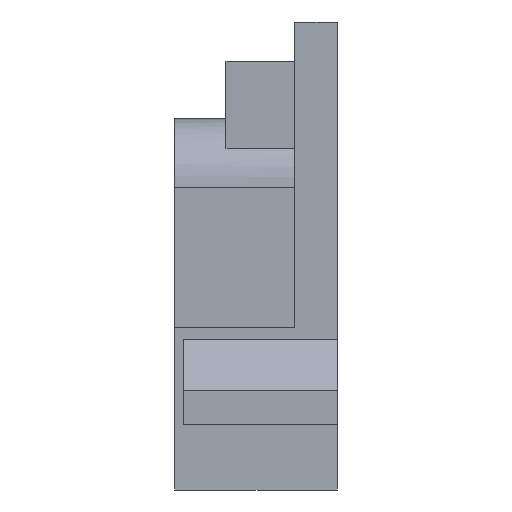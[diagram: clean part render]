
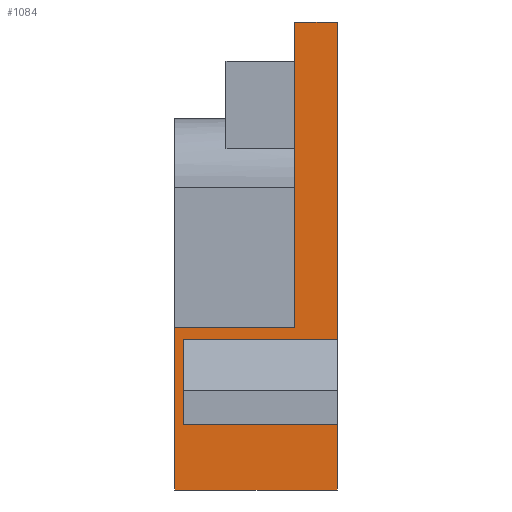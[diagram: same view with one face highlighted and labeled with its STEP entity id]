
A CAD part, left-side view. The second image highlights one B-rep face of the part: STEP entity #1084.
In plain terms, the highlighted planar face has unit normal (-1, 0, 0).
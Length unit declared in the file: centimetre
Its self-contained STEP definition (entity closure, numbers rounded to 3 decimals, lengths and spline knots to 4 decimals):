
#71=FACE_OUTER_BOUND('',#135,.T.);
#135=EDGE_LOOP('',(#804,#805,#806,#807,#808,#809,#810,#811,#812,#813));
#194=LINE('',#1536,#329);
#198=LINE('',#1544,#333);
#209=LINE('',#1655,#344);
#212=LINE('',#1661,#347);
#215=LINE('',#1666,#350);
#219=LINE('',#1676,#354);
#222=LINE('',#1681,#357);
#232=LINE('',#1715,#367);
#237=LINE('',#1726,#372);
#238=LINE('',#1727,#373);
#329=VECTOR('',#1242,1.);
#333=VECTOR('',#1246,1.);
#344=VECTOR('',#1263,1.);
#347=VECTOR('',#1268,1.);
#350=VECTOR('',#1273,1.);
#354=VECTOR('',#1281,1.);
#357=VECTOR('',#1286,1.);
#367=VECTOR('',#1314,1.);
#372=VECTOR('',#1323,1.);
#373=VECTOR('',#1324,1.);
#460=VERTEX_POINT('',#1533);
#461=VERTEX_POINT('',#1535);
#464=VERTEX_POINT('',#1541);
#465=VERTEX_POINT('',#1543);
#474=VERTEX_POINT('',#1654);
#476=VERTEX_POINT('',#1660);
#480=VERTEX_POINT('',#1673);
#481=VERTEX_POINT('',#1675);
#482=VERTEX_POINT('',#1679);
#497=VERTEX_POINT('',#1714);
#567=EDGE_CURVE('',#461,#460,#194,.T.);
#571=EDGE_CURVE('',#465,#464,#198,.T.);
#583=EDGE_CURVE('',#474,#461,#209,.T.);
#586=EDGE_CURVE('',#476,#474,#212,.T.);
#589=EDGE_CURVE('',#464,#476,#215,.T.);
#593=EDGE_CURVE('',#480,#481,#219,.T.);
#596=EDGE_CURVE('',#482,#480,#222,.T.);
#613=EDGE_CURVE('',#497,#481,#232,.T.);
#619=EDGE_CURVE('',#497,#460,#237,.T.);
#620=EDGE_CURVE('',#482,#465,#238,.T.);
#804=ORIENTED_EDGE('',*,*,#583,.T.);
#805=ORIENTED_EDGE('',*,*,#567,.T.);
#806=ORIENTED_EDGE('',*,*,#619,.F.);
#807=ORIENTED_EDGE('',*,*,#613,.T.);
#808=ORIENTED_EDGE('',*,*,#593,.F.);
#809=ORIENTED_EDGE('',*,*,#596,.F.);
#810=ORIENTED_EDGE('',*,*,#620,.T.);
#811=ORIENTED_EDGE('',*,*,#571,.T.);
#812=ORIENTED_EDGE('',*,*,#589,.T.);
#813=ORIENTED_EDGE('',*,*,#586,.T.);
#1037=PLANE('',#1164);
#1084=ADVANCED_FACE('',(#71),#1037,.T.);
#1164=AXIS2_PLACEMENT_3D('',#1725,#1321,#1322);
#1242=DIRECTION('',(0.,0.,1.));
#1246=DIRECTION('',(0.,0.,1.));
#1263=DIRECTION('',(0.,-1.,0.));
#1268=DIRECTION('',(0.,0.,1.));
#1273=DIRECTION('',(0.,1.,0.));
#1281=DIRECTION('',(0.,-1.,0.));
#1286=DIRECTION('',(0.,0.,1.));
#1314=DIRECTION('',(0.,0.,-1.));
#1321=DIRECTION('center_axis',(-1.,0.,0.));
#1322=DIRECTION('ref_axis',(0.,-1.,0.));
#1323=DIRECTION('',(0.,-1.,0.));
#1324=DIRECTION('',(0.,-1.,0.));
#1533=CARTESIAN_POINT('',(-3.3,-5.2,2.73));
#1535=CARTESIAN_POINT('',(-3.3,-5.2,0.88));
#1536=CARTESIAN_POINT('',(-3.3,-5.2,0.));
#1541=CARTESIAN_POINT('',(-3.3,-5.2,0.38));
#1543=CARTESIAN_POINT('',(-3.3,-5.2,0.));
#1544=CARTESIAN_POINT('',(-3.3,-5.2,0.));
#1654=CARTESIAN_POINT('',(-3.3,-4.3,0.88));
#1655=CARTESIAN_POINT('',(-3.3,-4.725,0.88));
#1660=CARTESIAN_POINT('',(-3.3,-4.3,0.38));
#1661=CARTESIAN_POINT('',(-3.3,-4.3,0.3225));
#1666=CARTESIAN_POINT('',(-3.3,-4.725,0.38));
#1673=CARTESIAN_POINT('',(-3.3,-4.25,0.95));
#1675=CARTESIAN_POINT('',(-3.3,-4.95,0.95));
#1676=CARTESIAN_POINT('',(-3.3,-4.25,0.95));
#1679=CARTESIAN_POINT('',(-3.3,-4.25,0.));
#1681=CARTESIAN_POINT('',(-3.3,-4.25,0.248));
#1714=CARTESIAN_POINT('',(-3.3,-4.95,2.73));
#1715=CARTESIAN_POINT('',(-3.3,-4.95,0.125));
#1725=CARTESIAN_POINT('Origin',(-3.3,-4.25,0.));
#1726=CARTESIAN_POINT('',(-3.3,-4.25,2.73));
#1727=CARTESIAN_POINT('',(-3.3,-2.125,0.));
